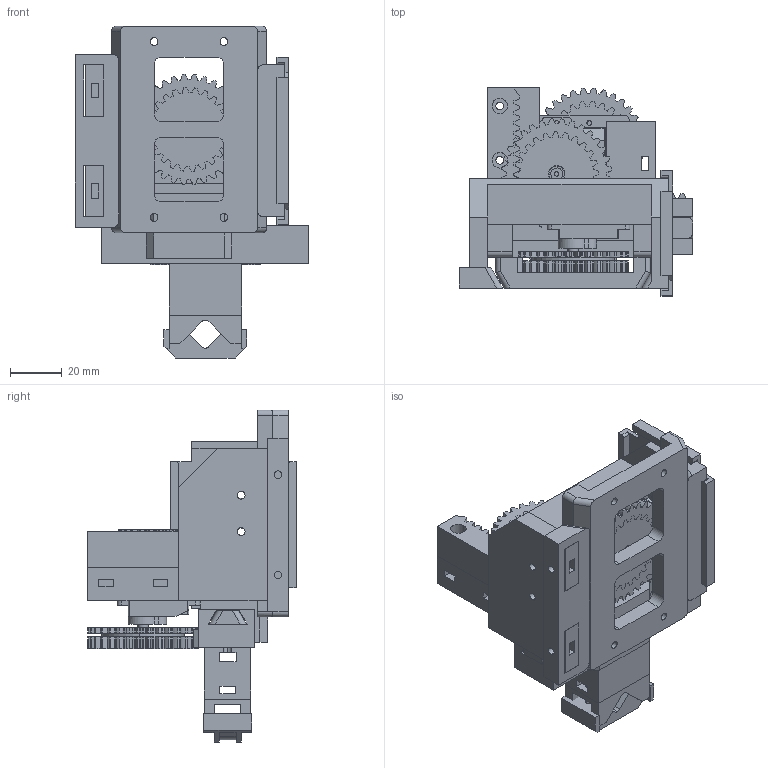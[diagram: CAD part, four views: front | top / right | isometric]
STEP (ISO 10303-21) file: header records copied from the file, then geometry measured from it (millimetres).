
FILE_DESCRIPTION (( 'STEP AP203' ), '1' );
FILE_NAME ('plotsi_v3.STEP', '2013-12-18T17:42:19', ( 'Tiago' ), ( '' ), 'SwSTEP 2.0', 'SolidWorks 2013', '' );
FILE_SCHEMA (( 'CONFIG_CONTROL_DESIGN' ));
Length unit declared in the file: millimetre
Products named in the file (8): plotsi_v3; emax_es08d; gears; Part1; 44tooth_gear; 24tooth_gear; head-base; head-cap
Assembly tree (12 placements, depth 2):
  plotsi_v3
    emax_es08d  x3
    gears  x3
    Part1
    44tooth_gear  x2
    24tooth_gear
    head-base
    head-cap
Bounding box: 90.3 x 80.5 x 128.38 mm (x, y, z)
Volume: 259915 mm3; surface area: 145821.3 mm2
Topology: 40 solids, 40 shells, 5271 faces, 15318 edges, 10203 vertices
Faces by surface type: plane 3855, bspline 850, cylinder 558, cone 8
Entity records: 87446 total; most frequent: CARTESIAN_POINT 19682, ORIENTED_EDGE 14970, DIRECTION 11975, EDGE_CURVE 7485, VECTOR 6099, LINE 6099, VERTEX_POINT 4983, AXIS2_PLACEMENT_3D 2938
